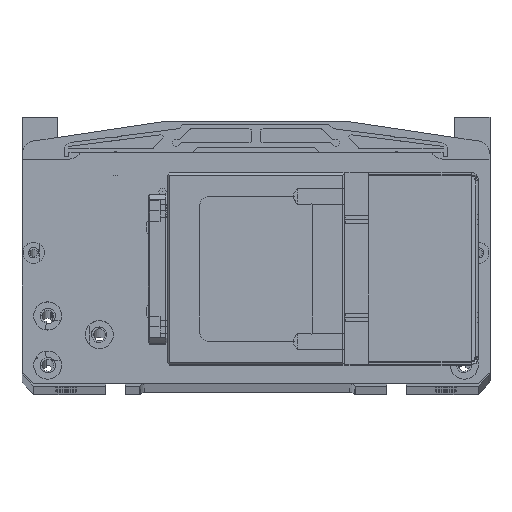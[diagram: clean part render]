
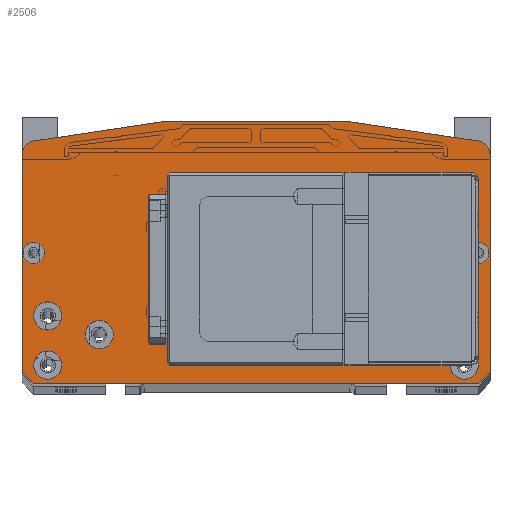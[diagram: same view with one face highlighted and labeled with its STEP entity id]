
A CAD part, top view. The second image highlights one B-rep face of the part: STEP entity #2506.
In plain terms, the highlighted planar face has unit normal (0, 0, 1).
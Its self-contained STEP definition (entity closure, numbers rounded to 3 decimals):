
#600=FACE_BOUND('',#5053,.T.);
#601=FACE_BOUND('',#5054,.T.);
#602=FACE_BOUND('',#5055,.T.);
#603=FACE_BOUND('',#5056,.T.);
#604=FACE_BOUND('',#5057,.T.);
#605=FACE_BOUND('',#5058,.T.);
#606=FACE_BOUND('',#5059,.T.);
#607=FACE_BOUND('',#5060,.T.);
#608=FACE_BOUND('',#5061,.T.);
#609=FACE_BOUND('',#5062,.T.);
#610=FACE_BOUND('',#5063,.T.);
#611=FACE_BOUND('',#5064,.T.);
#612=FACE_BOUND('',#5065,.T.);
#2506=ADVANCED_FACE('',(#600,#601,#602,#603,#604,#605,#606,#607,#608,#609,
#610,#611,#612),#3185,.F.);
#3185=PLANE('',#21062);
#5053=EDGE_LOOP('',(#10134,#10135,#10136,#10137));
#5054=EDGE_LOOP('',(#10138,#10139,#10140,#10141));
#5055=EDGE_LOOP('',(#10142));
#5056=EDGE_LOOP('',(#10143));
#5057=EDGE_LOOP('',(#10144,#10145,#10146,#10147,#10148,#10149,#10150,#10151,
#10152,#10153));
#5058=EDGE_LOOP('',(#10154));
#5059=EDGE_LOOP('',(#10155));
#5060=EDGE_LOOP('',(#10156));
#5061=EDGE_LOOP('',(#10157));
#5062=EDGE_LOOP('',(#10158));
#5063=EDGE_LOOP('',(#10159));
#5064=EDGE_LOOP('',(#10160));
#5065=EDGE_LOOP('',(#10161));
#6224=CIRCLE('',#20944,1.65);
#6239=CIRCLE('',#20973,1.65);
#6244=CIRCLE('',#20987,6.);
#6251=CIRCLE('',#21001,6.);
#6252=CIRCLE('',#21004,4.5);
#6256=CIRCLE('',#21011,4.5);
#6260=CIRCLE('',#21018,6.);
#6264=CIRCLE('',#21025,6.);
#6268=CIRCLE('',#21032,6.);
#6272=CIRCLE('',#21039,6.);
#6276=CIRCLE('',#21046,6.);
#6280=CIRCLE('',#21053,6.);
#10134=ORIENTED_EDGE('',*,*,#16064,.F.);
#10135=ORIENTED_EDGE('',*,*,#16065,.F.);
#10136=ORIENTED_EDGE('',*,*,#16066,.T.);
#10137=ORIENTED_EDGE('',*,*,#16067,.T.);
#10138=ORIENTED_EDGE('',*,*,#15907,.T.);
#10139=ORIENTED_EDGE('',*,*,#15910,.T.);
#10140=ORIENTED_EDGE('',*,*,#15930,.T.);
#10141=ORIENTED_EDGE('',*,*,#15903,.T.);
#10142=ORIENTED_EDGE('',*,*,#15965,.T.);
#10143=ORIENTED_EDGE('',*,*,#15993,.T.);
#10144=ORIENTED_EDGE('',*,*,#15998,.F.);
#10145=ORIENTED_EDGE('',*,*,#14840,.T.);
#10146=ORIENTED_EDGE('',*,*,#16030,.F.);
#10147=ORIENTED_EDGE('',*,*,#14864,.T.);
#10148=ORIENTED_EDGE('',*,*,#16029,.F.);
#10149=ORIENTED_EDGE('',*,*,#16000,.F.);
#10150=ORIENTED_EDGE('',*,*,#16006,.T.);
#10151=ORIENTED_EDGE('',*,*,#16009,.F.);
#10152=ORIENTED_EDGE('',*,*,#16010,.F.);
#10153=ORIENTED_EDGE('',*,*,#14542,.T.);
#10154=ORIENTED_EDGE('',*,*,#16060,.T.);
#10155=ORIENTED_EDGE('',*,*,#16056,.T.);
#10156=ORIENTED_EDGE('',*,*,#16052,.T.);
#10157=ORIENTED_EDGE('',*,*,#16048,.T.);
#10158=ORIENTED_EDGE('',*,*,#16044,.T.);
#10159=ORIENTED_EDGE('',*,*,#16040,.T.);
#10160=ORIENTED_EDGE('',*,*,#16036,.T.);
#10161=ORIENTED_EDGE('',*,*,#16032,.T.);
#12519=VERTEX_POINT('',#30768);
#12520=VERTEX_POINT('',#30770);
#12698=VERTEX_POINT('',#31939);
#12699=VERTEX_POINT('',#31941);
#12708=VERTEX_POINT('',#31984);
#12709=VERTEX_POINT('',#31986);
#13391=VERTEX_POINT('',#35976);
#13395=VERTEX_POINT('',#35985);
#13398=VERTEX_POINT('',#35993);
#13400=VERTEX_POINT('',#35999);
#13441=VERTEX_POINT('',#36133);
#13458=VERTEX_POINT('',#36192);
#13465=VERTEX_POINT('',#36212);
#13466=VERTEX_POINT('',#36213);
#13470=VERTEX_POINT('',#36223);
#13472=VERTEX_POINT('',#36229);
#13479=VERTEX_POINT('',#36270);
#13482=VERTEX_POINT('',#36280);
#13485=VERTEX_POINT('',#36290);
#13488=VERTEX_POINT('',#36300);
#13491=VERTEX_POINT('',#36310);
#13494=VERTEX_POINT('',#36320);
#13497=VERTEX_POINT('',#36330);
#13500=VERTEX_POINT('',#36340);
#13503=VERTEX_POINT('',#36352);
#13504=VERTEX_POINT('',#36353);
#13505=VERTEX_POINT('',#36355);
#13506=VERTEX_POINT('',#36357);
#14542=EDGE_CURVE('',#12520,#12519,#16945,.T.);
#14840=EDGE_CURVE('',#12699,#12698,#17141,.T.);
#14864=EDGE_CURVE('',#12709,#12708,#17161,.T.);
#15903=EDGE_CURVE('',#13391,#13395,#17766,.T.);
#15907=EDGE_CURVE('',#13395,#13398,#17770,.T.);
#15910=EDGE_CURVE('',#13398,#13400,#17773,.T.);
#15930=EDGE_CURVE('',#13400,#13391,#17793,.T.);
#15965=EDGE_CURVE('',#13441,#13441,#6224,.T.);
#15993=EDGE_CURVE('',#13458,#13458,#6239,.T.);
#15998=EDGE_CURVE('',#12699,#12519,#17813,.T.);
#16000=EDGE_CURVE('',#13465,#13466,#17815,.T.);
#16006=EDGE_CURVE('',#13465,#13470,#17821,.T.);
#16009=EDGE_CURVE('',#13472,#13470,#17824,.T.);
#16010=EDGE_CURVE('',#12520,#13472,#6244,.T.);
#16029=EDGE_CURVE('',#13466,#12708,#6251,.T.);
#16030=EDGE_CURVE('',#12709,#12698,#17837,.T.);
#16032=EDGE_CURVE('',#13479,#13479,#6252,.T.);
#16036=EDGE_CURVE('',#13482,#13482,#6256,.T.);
#16040=EDGE_CURVE('',#13485,#13485,#6260,.T.);
#16044=EDGE_CURVE('',#13488,#13488,#6264,.T.);
#16048=EDGE_CURVE('',#13491,#13491,#6268,.T.);
#16052=EDGE_CURVE('',#13494,#13494,#6272,.T.);
#16056=EDGE_CURVE('',#13497,#13497,#6276,.T.);
#16060=EDGE_CURVE('',#13500,#13500,#6280,.T.);
#16064=EDGE_CURVE('',#13503,#13504,#17839,.T.);
#16065=EDGE_CURVE('',#13505,#13503,#17840,.T.);
#16066=EDGE_CURVE('',#13505,#13506,#17841,.T.);
#16067=EDGE_CURVE('',#13506,#13504,#17842,.T.);
#16945=LINE('',#30769,#18440);
#17141=LINE('',#31940,#18636);
#17161=LINE('',#31985,#18656);
#17766=LINE('',#35986,#19261);
#17770=LINE('',#35994,#19265);
#17773=LINE('',#36000,#19268);
#17793=LINE('',#36036,#19288);
#17813=LINE('',#36208,#19308);
#17815=LINE('',#36211,#19310);
#17821=LINE('',#36224,#19316);
#17824=LINE('',#36230,#19319);
#17837=LINE('',#36266,#19332);
#17839=LINE('',#36351,#19334);
#17840=LINE('',#36354,#19335);
#17841=LINE('',#36356,#19336);
#17842=LINE('',#36358,#19337);
#18440=VECTOR('',#22613,1.);
#18636=VECTOR('',#23085,1.);
#18656=VECTOR('',#23135,1.);
#19261=VECTOR('',#25188,1.);
#19265=VECTOR('',#25194,1.);
#19268=VECTOR('',#25199,1.);
#19288=VECTOR('',#25231,1.);
#19308=VECTOR('',#25447,1.);
#19310=VECTOR('',#25451,1.);
#19316=VECTOR('',#25459,1.);
#19319=VECTOR('',#25464,1.);
#19332=VECTOR('',#25511,1.);
#19334=VECTOR('',#25631,1.);
#19335=VECTOR('',#25632,1.);
#19336=VECTOR('',#25633,1.);
#19337=VECTOR('',#25634,1.);
#20944=AXIS2_PLACEMENT_3D('',#36132,#25356,#25357);
#20973=AXIS2_PLACEMENT_3D('',#36191,#25427,#25428);
#20987=AXIS2_PLACEMENT_3D('',#36232,#25467,#25468);
#21001=AXIS2_PLACEMENT_3D('',#36264,#25507,#25508);
#21004=AXIS2_PLACEMENT_3D('',#36269,#25515,#25516);
#21011=AXIS2_PLACEMENT_3D('',#36279,#25529,#25530);
#21018=AXIS2_PLACEMENT_3D('',#36289,#25543,#25544);
#21025=AXIS2_PLACEMENT_3D('',#36299,#25557,#25558);
#21032=AXIS2_PLACEMENT_3D('',#36309,#25571,#25572);
#21039=AXIS2_PLACEMENT_3D('',#36319,#25585,#25586);
#21046=AXIS2_PLACEMENT_3D('',#36329,#25599,#25600);
#21053=AXIS2_PLACEMENT_3D('',#36339,#25613,#25614);
#21062=AXIS2_PLACEMENT_3D('',#36359,#25635,#25636);
#22613=DIRECTION('',(0.,-1.,0.));
#23085=DIRECTION('',(1.,0.,0.));
#23135=DIRECTION('',(0.,1.,0.));
#25188=DIRECTION('',(0.,1.,0.));
#25194=DIRECTION('',(1.,0.,0.));
#25199=DIRECTION('',(0.,-1.,0.));
#25231=DIRECTION('',(-1.,0.,0.));
#25356=DIRECTION('',(0.,0.,-1.));
#25357=DIRECTION('',(1.,0.,0.));
#25427=DIRECTION('',(0.,0.,-1.));
#25428=DIRECTION('',(1.,0.,0.));
#25447=DIRECTION('',(-0.707,0.707,0.));
#25451=DIRECTION('',(0.989,-0.148,0.));
#25459=DIRECTION('',(-1.,0.,0.));
#25464=DIRECTION('',(0.989,0.148,0.));
#25467=DIRECTION('',(0.,0.,-1.));
#25468=DIRECTION('',(-1.,0.,0.));
#25507=DIRECTION('',(0.,0.,-1.));
#25508=DIRECTION('',(0.148,0.989,0.));
#25511=DIRECTION('',(-0.707,-0.707,0.));
#25515=DIRECTION('',(0.,0.,-1.));
#25516=DIRECTION('',(1.,0.,0.));
#25529=DIRECTION('',(0.,0.,-1.));
#25530=DIRECTION('',(1.,0.,0.));
#25543=DIRECTION('',(0.,0.,-1.));
#25544=DIRECTION('',(1.,0.,0.));
#25557=DIRECTION('',(0.,0.,-1.));
#25558=DIRECTION('',(1.,0.,0.));
#25571=DIRECTION('',(0.,0.,-1.));
#25572=DIRECTION('',(1.,0.,0.));
#25585=DIRECTION('',(0.,0.,-1.));
#25586=DIRECTION('',(1.,0.,0.));
#25599=DIRECTION('',(0.,0.,-1.));
#25600=DIRECTION('',(1.,0.,0.));
#25613=DIRECTION('',(0.,0.,-1.));
#25614=DIRECTION('',(1.,0.,0.));
#25631=DIRECTION('',(1.,0.,0.));
#25632=DIRECTION('',(0.,-1.,0.));
#25633=DIRECTION('',(1.,0.,0.));
#25634=DIRECTION('',(0.,-1.,0.));
#25635=DIRECTION('',(0.,0.,-1.));
#25636=DIRECTION('',(-1.,0.,0.));
#30768=CARTESIAN_POINT('',(-100.,7.,463.));
#30769=CARTESIAN_POINT('',(-100.,99.833,463.));
#30770=CARTESIAN_POINT('',(-100.,99.833,463.));
#31939=CARTESIAN_POINT('',(95.,2.,463.));
#31940=CARTESIAN_POINT('',(67.5,2.,463.));
#31941=CARTESIAN_POINT('',(-95.,2.,463.));
#31984=CARTESIAN_POINT('',(100.,99.833,463.));
#31985=CARTESIAN_POINT('',(100.,7.,463.));
#31986=CARTESIAN_POINT('',(100.,7.,463.));
#35976=CARTESIAN_POINT('',(-37.,11.,463.));
#35985=CARTESIAN_POINT('',(-37.,91.,463.));
#35986=CARTESIAN_POINT('',(-37.,11.,463.));
#35993=CARTESIAN_POINT('',(37.,91.,463.));
#35994=CARTESIAN_POINT('',(-37.,91.,463.));
#35999=CARTESIAN_POINT('',(37.,11.,463.));
#36000=CARTESIAN_POINT('',(37.,91.,463.));
#36036=CARTESIAN_POINT('',(37.,11.,463.));
#36132=CARTESIAN_POINT('',(42.,69.,463.));
#36133=CARTESIAN_POINT('',(43.65,69.,463.));
#36191=CARTESIAN_POINT('',(42.,33.,463.));
#36192=CARTESIAN_POINT('',(43.65,33.,463.));
#36208=CARTESIAN_POINT('',(-95.,2.,463.));
#36211=CARTESIAN_POINT('',(40.,114.,463.));
#36212=CARTESIAN_POINT('',(40.,114.,463.));
#36213=CARTESIAN_POINT('',(94.89,105.766,463.));
#36223=CARTESIAN_POINT('',(-40.,114.,463.));
#36224=CARTESIAN_POINT('',(40.,114.,463.));
#36229=CARTESIAN_POINT('',(-94.89,105.766,463.));
#36230=CARTESIAN_POINT('',(-94.89,105.766,463.));
#36232=CARTESIAN_POINT('',(-94.,99.833,463.));
#36264=CARTESIAN_POINT('',(94.,99.833,463.));
#36266=CARTESIAN_POINT('',(100.,7.,463.));
#36269=CARTESIAN_POINT('',(-95.,58.,463.));
#36270=CARTESIAN_POINT('',(-90.5,58.,463.));
#36279=CARTESIAN_POINT('',(95.,58.,463.));
#36280=CARTESIAN_POINT('',(99.5,58.,463.));
#36289=CARTESIAN_POINT('',(-67.,23.,463.));
#36290=CARTESIAN_POINT('',(-61.,23.,463.));
#36299=CARTESIAN_POINT('',(67.,23.,463.));
#36300=CARTESIAN_POINT('',(73.,23.,463.));
#36309=CARTESIAN_POINT('',(-89.,31.,463.));
#36310=CARTESIAN_POINT('',(-83.,31.,463.));
#36319=CARTESIAN_POINT('',(89.,31.,463.));
#36320=CARTESIAN_POINT('',(95.,31.,463.));
#36329=CARTESIAN_POINT('',(-89.,10.,463.));
#36330=CARTESIAN_POINT('',(-83.,10.,463.));
#36339=CARTESIAN_POINT('',(89.,10.,463.));
#36340=CARTESIAN_POINT('',(95.,10.,463.));
#36351=CARTESIAN_POINT('',(-45.5,21.534,463.));
#36352=CARTESIAN_POINT('',(-45.5,21.534,463.));
#36353=CARTESIAN_POINT('',(-38.5,21.534,463.));
#36354=CARTESIAN_POINT('',(-45.5,80.466,463.));
#36355=CARTESIAN_POINT('',(-45.5,80.466,463.));
#36356=CARTESIAN_POINT('',(-45.5,80.466,463.));
#36357=CARTESIAN_POINT('',(-38.5,80.466,463.));
#36358=CARTESIAN_POINT('',(-38.5,80.466,463.));
#36359=CARTESIAN_POINT('',(0.,2.,463.));
